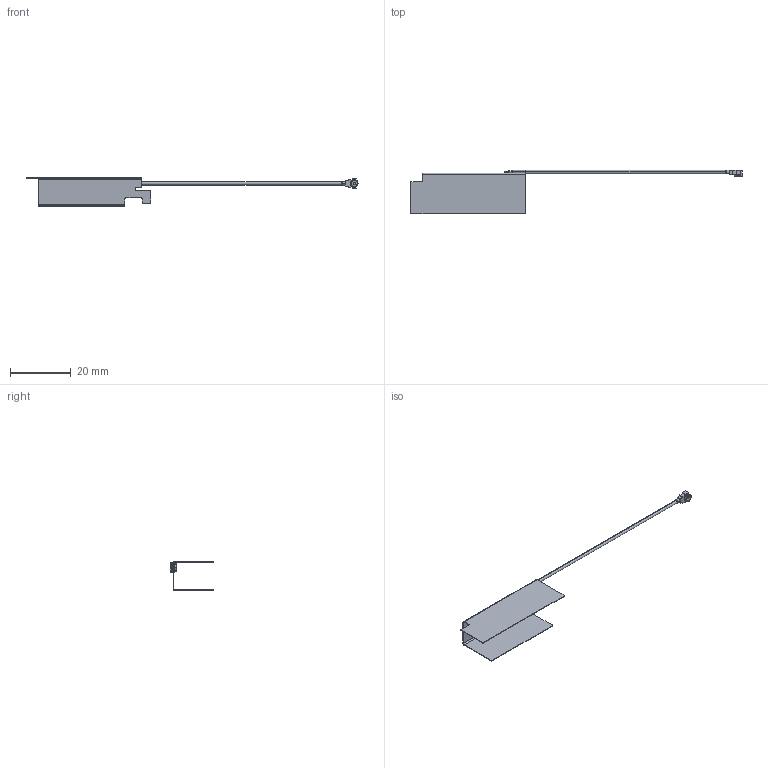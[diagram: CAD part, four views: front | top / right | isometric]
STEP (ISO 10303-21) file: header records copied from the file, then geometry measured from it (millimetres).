
FILE_DESCRIPTION((''),'2;1');
FILE_NAME('1001435_ASM','2016-09-01T',('mrodriguez'),(''),'PRO/ENGINEER BY PARAMETRIC TECHNOLOGY CORPORATION, 2011490','PRO/ENGINEER BY PARAMETRIC TECHNOLOGY CORPORATION, 2011490','');
FILE_SCHEMA(('AUTOMOTIVE_DESIGN { 1 0 10303 214 1 1 1 1 }'));
Length unit declared in the file: millimetre
Products named in the file (5): PRT0110; 1001437; HIROSE_COAXIAL; 1001437_ASM; 1001435_ASM
Assembly tree (4 placements, depth 3):
  1001435_ASM
    PRT0110
    1001437_ASM
      1001437
      HIROSE_COAXIAL
Bounding box: 109.35 x 14.41 x 9.47 mm (x, y, z)
Volume: 319.8 mm3; surface area: 2694.7 mm2
Topology: 3 solids, 3 shells, 81 faces, 201 edges, 132 vertices
Faces by surface type: plane 49, cylinder 32
Entity records: 3679 total; most frequent: DIRECTION 452, CARTESIAN_POINT 437, ORIENTED_EDGE 402, EDGE_CURVE 201, AXIS2_PLACEMENT_3D 159, VECTOR 134, LINE 134, VERTEX_POINT 132
